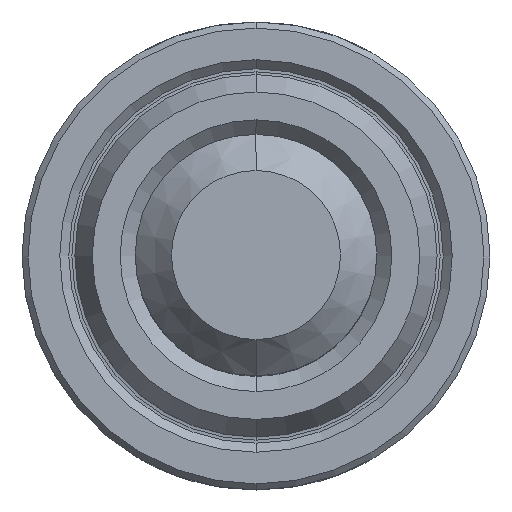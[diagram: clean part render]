
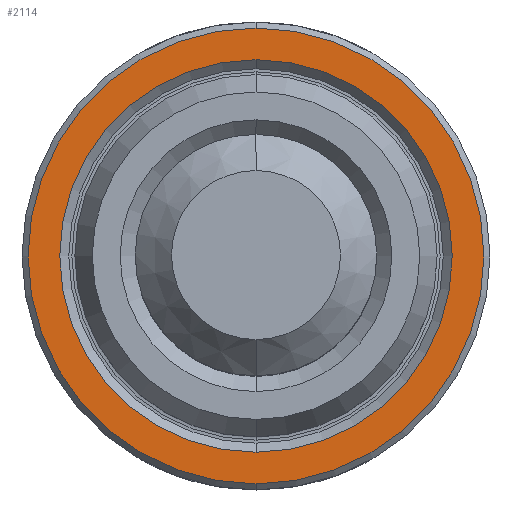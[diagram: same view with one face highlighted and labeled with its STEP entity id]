
A CAD part, top view. The second image highlights one B-rep face of the part: STEP entity #2114.
In plain terms, the highlighted planar face has unit normal (0, 0, 1).
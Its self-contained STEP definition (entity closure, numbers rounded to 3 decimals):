
#59 = ORIENTED_EDGE ( 'NONE', *, *, #1305, .T. ) ;
#109 = VERTEX_POINT ( 'NONE', #1856 ) ;
#113 = AXIS2_PLACEMENT_3D ( 'NONE', #683, #522, #1204 ) ;
#142 = DIRECTION ( 'NONE',  ( 0., 0., 1. ) ) ;
#229 = EDGE_CURVE ( 'NONE', #109, #632, #880, .T. ) ;
#303 = CARTESIAN_POINT ( 'NONE',  ( 0., 6.5, 0. ) ) ;
#304 = PLANE ( 'NONE',  #351 ) ;
#336 = ORIENTED_EDGE ( 'NONE', *, *, #437, .T. ) ;
#351 = AXIS2_PLACEMENT_3D ( 'NONE', #1959, #142, #811 ) ;
#437 = EDGE_CURVE ( 'NONE', #858, #833, #803, .T. ) ;
#450 = CARTESIAN_POINT ( 'NONE',  ( 0., 0., 0. ) ) ;
#457 = CIRCLE ( 'NONE', #1831, 7.55 ) ;
#522 = DIRECTION ( 'NONE',  ( 0., 0., -1. ) ) ;
#526 = AXIS2_PLACEMENT_3D ( 'NONE', #1819, #980, #2118 ) ;
#620 = EDGE_CURVE ( 'NONE', #632, #109, #457, .T. ) ;
#632 = VERTEX_POINT ( 'NONE', #1400 ) ;
#639 = DIRECTION ( 'NONE',  ( 0., -1., 0. ) ) ;
#683 = CARTESIAN_POINT ( 'NONE',  ( 0., 0., 0. ) ) ;
#765 = CARTESIAN_POINT ( 'NONE',  ( 0., -6.5, 0. ) ) ;
#803 = CIRCLE ( 'NONE', #526, 6.5 ) ;
#811 = DIRECTION ( 'NONE',  ( 0., -1., 0. ) ) ;
#833 = VERTEX_POINT ( 'NONE', #765 ) ;
#858 = VERTEX_POINT ( 'NONE', #303 ) ;
#880 = CIRCLE ( 'NONE', #1228, 7.55 ) ;
#918 = DIRECTION ( 'NONE',  ( 0., -1., 0. ) ) ;
#945 = DIRECTION ( 'NONE',  ( 0., 0., 1. ) ) ;
#960 = FACE_BOUND ( 'NONE', #1401, .T. ) ;
#968 = FACE_OUTER_BOUND ( 'NONE', #1016, .T. ) ;
#980 = DIRECTION ( 'NONE',  ( 0., 0., -1. ) ) ;
#1016 = EDGE_LOOP ( 'NONE', ( #1322, #1019 ) ) ;
#1019 = ORIENTED_EDGE ( 'NONE', *, *, #229, .T. ) ;
#1204 = DIRECTION ( 'NONE',  ( 0., 1., 0. ) ) ;
#1208 = DIRECTION ( 'NONE',  ( 0., 0., 1. ) ) ;
#1228 = AXIS2_PLACEMENT_3D ( 'NONE', #450, #945, #639 ) ;
#1305 = EDGE_CURVE ( 'NONE', #833, #858, #2044, .T. ) ;
#1322 = ORIENTED_EDGE ( 'NONE', *, *, #620, .T. ) ;
#1400 = CARTESIAN_POINT ( 'NONE',  ( 0., 7.55, 0. ) ) ;
#1401 = EDGE_LOOP ( 'NONE', ( #59, #336 ) ) ;
#1819 = CARTESIAN_POINT ( 'NONE',  ( 0., 0., 0. ) ) ;
#1831 = AXIS2_PLACEMENT_3D ( 'NONE', #2055, #1208, #918 ) ;
#1856 = CARTESIAN_POINT ( 'NONE',  ( 0., -7.55, 0. ) ) ;
#1959 = CARTESIAN_POINT ( 'NONE',  ( 6., 0., 0. ) ) ;
#2044 = CIRCLE ( 'NONE', #113, 6.5 ) ;
#2055 = CARTESIAN_POINT ( 'NONE',  ( 0., 0., 0. ) ) ;
#2114 = ADVANCED_FACE ( 'NONE', ( #960, #968 ), #304, .T. ) ;
#2118 = DIRECTION ( 'NONE',  ( 0., 1., 0. ) ) ;
